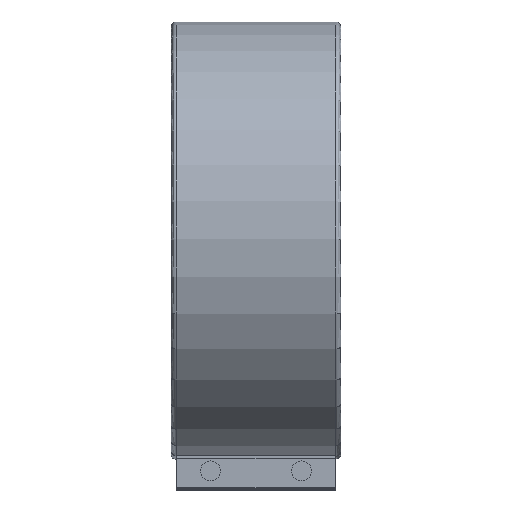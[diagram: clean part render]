
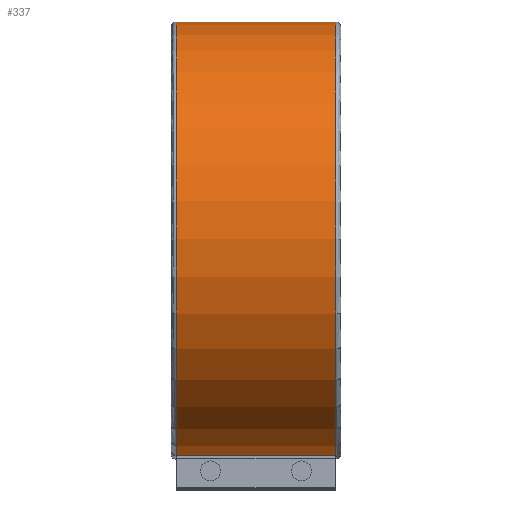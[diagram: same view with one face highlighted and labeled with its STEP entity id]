
A CAD part, top view. The second image highlights one B-rep face of the part: STEP entity #337.
In plain terms, the highlighted cylindrical face has radius 87.5 mm (diameter 175 mm), a partial arc.
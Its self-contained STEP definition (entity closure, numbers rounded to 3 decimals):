
#337 = ADVANCED_FACE( '', ( #729 ), #730, .T. );
#729 = FACE_OUTER_BOUND( '', #1142, .T. );
#730 = CYLINDRICAL_SURFACE( '', #1143, 87.5 );
#1142 = EDGE_LOOP( '', ( #2067, #2068, #2069, #2070 ) );
#1143 = AXIS2_PLACEMENT_3D( '', #2071, #2072, #2073 );
#2067 = ORIENTED_EDGE( '', *, *, #2360, .T. );
#2068 = ORIENTED_EDGE( '', *, *, #2419, .T. );
#2069 = ORIENTED_EDGE( '', *, *, #2562, .F. );
#2070 = ORIENTED_EDGE( '', *, *, #2457, .T. );
#2071 = CARTESIAN_POINT( '', ( 34., 0., 0. ) );
#2072 = DIRECTION( '', ( -1., 0., 0. ) );
#2073 = DIRECTION( '', ( 0., 0., -1. ) );
#2360 = EDGE_CURVE( '', #2840, #2823, #2841, .T. );
#2419 = EDGE_CURVE( '', #2823, #2853, #2933, .T. );
#2457 = EDGE_CURVE( '', #2786, #2840, #2984, .F. );
#2562 = EDGE_CURVE( '', #2786, #2853, #3129, .T. );
#2786 = VERTEX_POINT( '', #3458 );
#2823 = VERTEX_POINT( '', #3511 );
#2840 = VERTEX_POINT( '', #3533 );
#2841 = CIRCLE( '', #3534, 87.5 );
#2853 = VERTEX_POINT( '', #3548 );
#2933 = LINE( '', #3692, #3693 );
#2984 = LINE( '', #3763, #3764 );
#3129 = CIRCLE( '', #3978, 87.5 );
#3458 = CARTESIAN_POINT( '', ( 31.9, -86.071, -15.75 ) );
#3511 = CARTESIAN_POINT( '', ( -31.9, -86.071, 15.75 ) );
#3533 = CARTESIAN_POINT( '', ( -31.9, -86.071, -15.75 ) );
#3534 = AXIS2_PLACEMENT_3D( '', #4193, #4194, #4195 );
#3548 = CARTESIAN_POINT( '', ( 31.9, -86.071, 15.75 ) );
#3692 = CARTESIAN_POINT( '', ( 34., -86.071, 15.75 ) );
#3693 = VECTOR( '', #4250, 1000. );
#3763 = CARTESIAN_POINT( '', ( 34., -86.071, -15.75 ) );
#3764 = VECTOR( '', #4291, 1000. );
#3978 = AXIS2_PLACEMENT_3D( '', #4400, #4401, #4402 );
#4193 = CARTESIAN_POINT( '', ( -31.9, 0., 0. ) );
#4194 = DIRECTION( '', ( 1., 0., 0. ) );
#4195 = DIRECTION( '', ( 0., 0., -1. ) );
#4250 = DIRECTION( '', ( 1., 0., 0. ) );
#4291 = DIRECTION( '', ( 1., 0., 0. ) );
#4400 = CARTESIAN_POINT( '', ( 31.9, 0., 0. ) );
#4401 = DIRECTION( '', ( 1., 0., 0. ) );
#4402 = DIRECTION( '', ( 0., 0., -1. ) );
